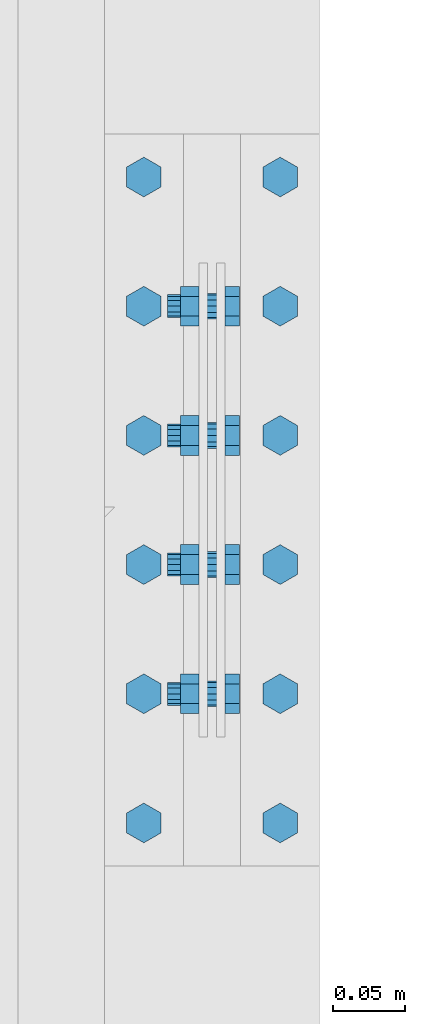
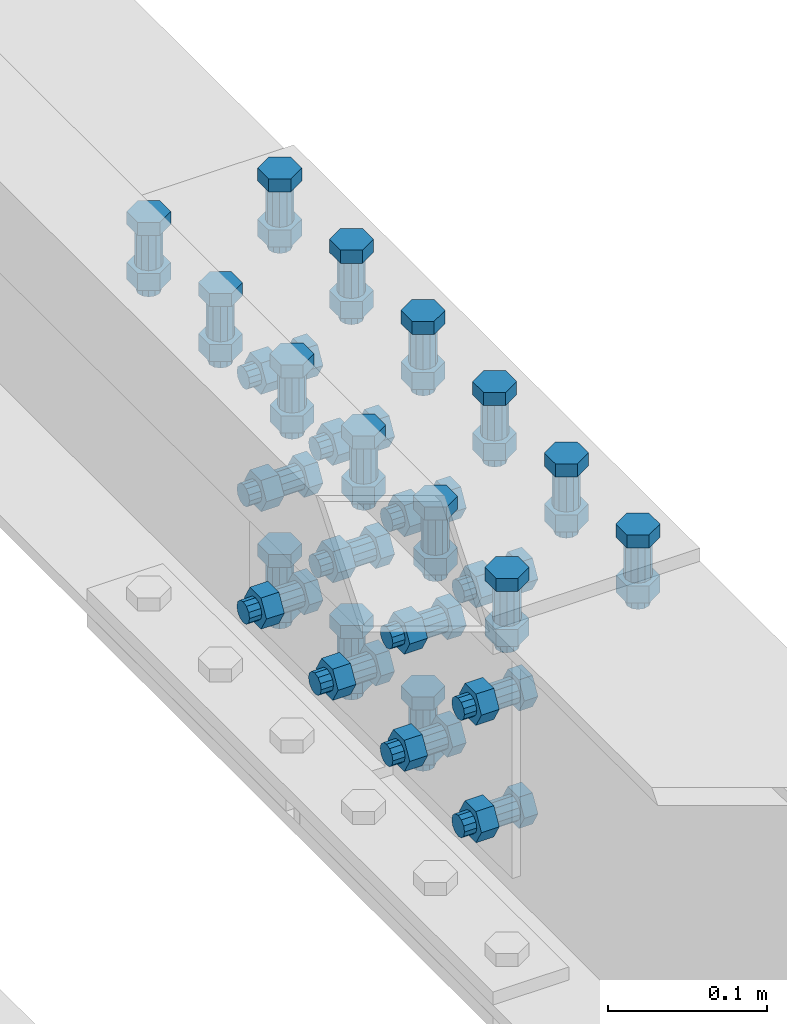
# One storey, part 149 of 3134: 7 mechanical fasteners, 2 elements without a shape of their own.
"""IFC2X3 building model written with IfcOpenShell, lengths in millimetres."""

from ifc_helpers import new_model, si_unit, frame, origin_with_axes, place, context, subcontext, project, spatial, faceted_brep, source, transform, mapped, material, type_object, element, aggregate, save


model = new_model("IFC2X3")

# Units and contexts
model_context = context("Model", 3, precision=1e-05, world=origin_with_axes())
body_context = subcontext(model_context, "Body", "Model", "MODEL_VIEW")
ifc_project = project(units=[si_unit("LENGTHUNIT", "METRE", prefix="MILLI"), si_unit("AREAUNIT", "SQUARE_METRE"), si_unit("VOLUMEUNIT", "CUBIC_METRE"), si_unit("MASSUNIT", "GRAM", prefix="KILO"), si_unit("TIMEUNIT", "SECOND"), si_unit("PLANEANGLEUNIT", "RADIAN"), si_unit("SOLIDANGLEUNIT", "STERADIAN"), si_unit("THERMODYNAMICTEMPERATUREUNIT", "DEGREE_CELSIUS"), si_unit("LUMINOUSINTENSITYUNIT", "LUMEN")], contexts=[model_context])

# Site, building, storey
site_placement = place(None, origin_with_axes())
site = spatial("IfcSite", under=ifc_project, at=site_placement, CompositionType="ELEMENT")
building_placement = place(site_placement, origin_with_axes())
building = spatial("IfcBuilding", under=site, at=building_placement, Name="Undefined", CompositionType="ELEMENT")
storey_placement = place(building_placement, origin_with_axes())
storey = spatial("IfcBuildingStorey", under=building, at=storey_placement, Name="Undefined", CompositionType="ELEMENT", Elevation=0.0)

# Assembly, mechanical fastener
assembly_1_placement = place(storey_placement, origin_with_axes())
assembly_1 = element("IfcElementAssembly", 1, at=assembly_1_placement, inside=storey, Name="300", AssemblyPlace="NOTDEFINED", PredefinedType="RIGID_FRAME")
ifc_material = material(Name="8.8")
mechanical_fastener_type = type_object("IfcMechanicalFastenerType", Name="Bolt assembly")
shared_shape_1 = source(origin_with_axes(), body_context, "Body", "Brep", [
    faceted_brep([(13.856406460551, -19.0499999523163, 0.0), (6.92820323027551, -19.0499999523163, 12.0), (-6.92820323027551, -19.0499999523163, 12.0), (-13.856406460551, -19.0499999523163, 1.69692038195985e-15), (-6.92820323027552, -19.0499999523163, -12.0), (6.9282032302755, -19.0499999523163, -12.0), (6.9282032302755, -9.04999995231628, -12.0), (-6.92820323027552, -9.04999995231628, -12.0), (-13.856406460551, -9.04999995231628, 1.69692038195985e-15), (-6.92820323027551, -9.04999995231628, 12.0), (6.92820323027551, -9.04999995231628, 12.0), (13.856406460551, -9.04999995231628, 0.0), (8.0, -9.04999995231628, 0.0), (6.92820323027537, -9.04999995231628, 4.00000000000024), (3.99999999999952, -9.04999995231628, 6.92820323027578), (-8.29068785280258e-13, -9.04999995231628, 8.0), (-4.00000000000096, -9.04999995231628, 6.92820323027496), (-6.9282032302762, -9.04999995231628, 3.99999999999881), (-8.0, -9.04999995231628, -1.65813757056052e-12), (-6.92820323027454, -9.04999995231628, -4.00000000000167), (-3.99999999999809, -9.04999995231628, -6.92820323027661), (2.47832457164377e-12, -9.04999995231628, -8.0), (4.00000000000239, -9.04999995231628, -6.92820323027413), (6.92820323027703, -9.04999995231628, -3.99999999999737), (6.92820323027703, 30.9500000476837, -3.99999999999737), (4.00000000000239, 30.9500000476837, -6.92820323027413), (2.47832457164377e-12, 30.9500000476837, -8.0), (-3.99999999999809, 30.9500000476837, -6.92820323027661), (-6.92820323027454, 30.9500000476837, -4.00000000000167), (-8.0, 30.9500000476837, -1.65813757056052e-12), (-6.9282032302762, 30.9500000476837, 3.99999999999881), (-4.00000000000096, 30.9500000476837, 6.92820323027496), (-8.29068785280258e-13, 30.9500000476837, 8.0), (3.99999999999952, 30.9500000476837, 6.92820323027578), (6.92820323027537, 30.9500000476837, 4.00000000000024), (8.0, 30.9500000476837, 0.0), (13.856406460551, 9.04999995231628, 0.0), (6.92820323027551, 9.04999995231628, 12.0), (-6.92820323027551, 9.04999995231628, 12.0), (-13.856406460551, 9.04999995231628, 1.69692038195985e-15), (-6.92820323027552, 9.04999995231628, -12.0), (6.9282032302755, 9.04999995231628, -12.0), (6.9282032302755, 22.0499999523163, -12.0), (-6.92820323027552, 22.0499999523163, -12.0), (-13.856406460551, 22.0499999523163, 1.69692038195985e-15), (-6.92820323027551, 22.0499999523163, 12.0), (6.92820323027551, 22.0499999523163, 12.0), (13.856406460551, 22.0499999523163, 0.0)], [[[0, 1, 2, 3, 4, 5]], [[6, 7, 8, 9, 10, 11]], [[0, 11, 10, 1]], [[1, 10, 9, 2]], [[2, 9, 8, 3]], [[3, 8, 7, 4]], [[4, 7, 6, 5]], [[5, 6, 11, 0]], [[12, 13, 14, 15, 16, 17, 18, 19, 20, 21, 22, 23]], [[24, 25, 26, 27, 28, 29, 30, 31, 32, 33, 34, 35]], [[12, 35, 34, 13]], [[13, 34, 33, 14]], [[14, 33, 32, 15]], [[15, 32, 31, 16]], [[16, 31, 30, 17]], [[17, 30, 29, 18]], [[18, 29, 28, 19]], [[19, 28, 27, 20]], [[20, 27, 26, 21]], [[21, 26, 25, 22]], [[22, 25, 24, 23]], [[23, 24, 35, 12]], [[36, 37, 38, 39, 40, 41]], [[42, 43, 44, 45, 46, 47]], [[36, 47, 46, 37]], [[37, 46, 45, 38]], [[38, 45, 44, 39]], [[39, 44, 43, 40]], [[40, 43, 42, 41]], [[41, 42, 47, 36]]]),
    faceted_brep([(9.0, -8.94999995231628, 0.0), (7.79422863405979, -8.94999995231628, 4.50000000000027), (4.49999999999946, -8.94999995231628, 7.79422863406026), (-9.3270238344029e-13, -8.94999995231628, 9.0), (-4.50000000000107, -8.94999995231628, 7.79422863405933), (-7.79422863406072, -8.94999995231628, 4.49999999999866), (-9.0, -8.94999995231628, -1.86540476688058e-12), (-7.79422863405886, -8.94999995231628, -4.50000000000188), (-4.49999999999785, -8.94999995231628, -7.79422863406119), (2.78811514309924e-12, -8.94999995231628, -9.0), (4.50000000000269, -8.94999995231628, -7.7942286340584), (7.79422863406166, -8.94999995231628, -4.49999999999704), (7.79422863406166, -2.94999995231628, -4.49999999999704), (4.50000000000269, -2.94999995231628, -7.7942286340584), (2.78811514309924e-12, -2.94999995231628, -9.0), (-4.49999999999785, -2.94999995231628, -7.79422863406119), (-7.79422863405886, -2.94999995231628, -4.50000000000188), (-9.0, -2.94999995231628, -1.86540476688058e-12), (-7.79422863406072, -2.94999995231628, 4.49999999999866), (-4.50000000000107, -2.94999995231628, 7.79422863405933), (-9.3270238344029e-13, -2.94999995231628, 9.0), (4.49999999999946, -2.94999995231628, 7.79422863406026), (7.79422863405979, -2.94999995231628, 4.50000000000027), (9.0, -2.94999995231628, 0.0), (9.0, -3.04999995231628, 0.0), (7.79422863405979, -3.04999995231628, 4.50000000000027), (4.49999999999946, -3.04999995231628, 7.79422863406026), (-9.3270238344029e-13, -3.04999995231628, 9.0), (-4.50000000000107, -3.04999995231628, 7.79422863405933), (-7.79422863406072, -3.04999995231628, 4.49999999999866), (-9.0, -3.04999995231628, -1.86540476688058e-12), (-7.79422863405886, -3.04999995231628, -4.50000000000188), (-4.49999999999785, -3.04999995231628, -7.79422863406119), (2.78811514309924e-12, -3.04999995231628, -9.0), (4.50000000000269, -3.04999995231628, -7.7942286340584), (7.79422863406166, -3.04999995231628, -4.49999999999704), (7.79422863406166, 3.04999995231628, -4.49999999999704), (4.50000000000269, 3.04999995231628, -7.7942286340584), (2.78811514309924e-12, 3.04999995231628, -9.0), (-4.49999999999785, 3.04999995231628, -7.79422863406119), (-7.79422863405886, 3.04999995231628, -4.50000000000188), (-9.0, 3.04999995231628, -1.86540476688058e-12), (-7.79422863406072, 3.04999995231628, 4.49999999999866), (-4.50000000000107, 3.04999995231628, 7.79422863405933), (-9.3270238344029e-13, 3.04999995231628, 9.0), (4.49999999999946, 3.04999995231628, 7.79422863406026), (7.79422863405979, 3.04999995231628, 4.50000000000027), (9.0, 3.04999995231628, 0.0), (9.0, 2.95000000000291, 0.0), (7.79422863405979, 2.95000000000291, 4.50000000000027), (4.49999999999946, 2.95000000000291, 7.79422863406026), (-9.3270238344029e-13, 2.95000000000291, 9.0), (-4.50000000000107, 2.95000000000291, 7.79422863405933), (-7.79422863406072, 2.95000000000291, 4.49999999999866), (-9.0, 2.95000000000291, -1.86540476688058e-12), (-7.79422863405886, 2.95000000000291, -4.50000000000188), (-4.49999999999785, 2.95000000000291, -7.79422863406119), (2.78811514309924e-12, 2.95000000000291, -9.0), (4.50000000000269, 2.95000000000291, -7.7942286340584), (7.79422863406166, 2.95000000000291, -4.49999999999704), (7.79422863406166, 9.04999995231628, -4.49999999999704), (4.50000000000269, 9.04999995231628, -7.7942286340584), (2.78811514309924e-12, 9.04999995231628, -9.0), (-4.49999999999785, 9.04999995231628, -7.79422863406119), (-7.79422863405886, 9.04999995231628, -4.50000000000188), (-9.0, 9.04999995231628, -1.86540476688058e-12), (-7.79422863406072, 9.04999995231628, 4.49999999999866), (-4.50000000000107, 9.04999995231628, 7.79422863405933), (-9.3270238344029e-13, 9.04999995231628, 9.0), (4.49999999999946, 9.04999995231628, 7.79422863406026), (7.79422863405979, 9.04999995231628, 4.50000000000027), (9.0, 9.04999995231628, 0.0)], [[[0, 1, 2, 3, 4, 5, 6, 7, 8, 9, 10, 11]], [[12, 13, 14, 15, 16, 17, 18, 19, 20, 21, 22, 23]], [[0, 23, 22, 1]], [[1, 22, 21, 2]], [[2, 21, 20, 3]], [[3, 20, 19, 4]], [[4, 19, 18, 5]], [[5, 18, 17, 6]], [[6, 17, 16, 7]], [[7, 16, 15, 8]], [[8, 15, 14, 9]], [[9, 14, 13, 10]], [[10, 13, 12, 11]], [[11, 12, 23, 0]], [[24, 25, 26, 27, 28, 29, 30, 31, 32, 33, 34, 35]], [[36, 37, 38, 39, 40, 41, 42, 43, 44, 45, 46, 47]], [[24, 47, 46, 25]], [[25, 46, 45, 26]], [[26, 45, 44, 27]], [[27, 44, 43, 28]], [[28, 43, 42, 29]], [[29, 42, 41, 30]], [[30, 41, 40, 31]], [[31, 40, 39, 32]], [[32, 39, 38, 33]], [[33, 38, 37, 34]], [[34, 37, 36, 35]], [[35, 36, 47, 24]], [[48, 49, 50, 51, 52, 53, 54, 55, 56, 57, 58, 59]], [[60, 61, 62, 63, 64, 65, 66, 67, 68, 69, 70, 71]], [[48, 71, 70, 49]], [[49, 70, 69, 50]], [[50, 69, 68, 51]], [[51, 68, 67, 52]], [[52, 67, 66, 53]], [[53, 66, 65, 54]], [[54, 65, 64, 55]], [[55, 64, 63, 56]], [[56, 63, 62, 57]], [[57, 62, 61, 58]], [[58, 61, 60, 59]], [[59, 60, 71, 48]]]),
])
mechanical_fastener_1_placement = place(assembly_1_placement, frame((44200.0, 28369.9, 4088.5), z_axis=(0.0, 0.0, 1.0), x_axis=(0.0, 1.0, 0.0)))
mechanical_fastener_1 = element("IfcMechanicalFastener", 2, at=mechanical_fastener_1_placement, type_object=mechanical_fastener_type, material=ifc_material, Name="Bolt assembly", NominalDiameter=16.0, NominalLength=40.0, context=body_context, shape_type="MappedRepresentation", body=[
    mapped(shared_shape_1, transform((0.0, 0.0, -90.0))),
    mapped(shared_shape_1, transform((90.0, 0.0, -90.0))),
    mapped(shared_shape_1, transform((0.0, 0.0, 0.0))),
    mapped(shared_shape_1, transform((90.0, 0.0, 0.0))),
    mapped(shared_shape_1, transform((0.0, 0.0, 90.0))),
    mapped(shared_shape_1, transform((90.0, 0.0, 90.0))),
])

# Assembly, mechanical fasteners
assembly_2_placement = place(storey_placement, origin_with_axes())
assembly_2 = element("IfcElementAssembly", 3, at=assembly_2_placement, inside=storey, Name="300", AssemblyPlace="NOTDEFINED", PredefinedType="RIGID_FRAME")
mechanical_fastener_2_placement = place(assembly_2_placement, frame((44200.0, 28189.9, 4088.5), z_axis=(0.0, 0.0, 1.0), x_axis=(0.0, 1.0, 0.0)))
mechanical_fastener_2 = element("IfcMechanicalFastener", 4, at=mechanical_fastener_2_placement, type_object=mechanical_fastener_type, material=ifc_material, Name="Bolt assembly", NominalDiameter=16.0, NominalLength=40.0, context=body_context, shape_type="MappedRepresentation", body=[
    mapped(shared_shape_1, transform((0.0, 0.0, -90.0))),
    mapped(shared_shape_1, transform((90.0, 0.0, -90.0))),
    mapped(shared_shape_1, transform((0.0, 0.0, 0.0))),
    mapped(shared_shape_1, transform((90.0, 0.0, 0.0))),
    mapped(shared_shape_1, transform((0.0, 0.0, 90.0))),
    mapped(shared_shape_1, transform((90.0, 0.0, 90.0))),
])
shared_shape_2 = source(origin_with_axes(), body_context, "Body", "Brep", [
    faceted_brep([(13.856406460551, -29.1999998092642, 0.0), (6.92820323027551, -29.1999998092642, 12.0), (-6.92820323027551, -29.1999998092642, 12.0), (-13.856406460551, -29.1999998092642, 1.69692038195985e-15), (-6.92820323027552, -29.1999998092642, -12.0), (6.9282032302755, -29.1999998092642, -12.0), (6.9282032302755, -19.199990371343, -12.0), (-6.92820323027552, -19.199990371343, -12.0), (-13.856406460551, -19.199990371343, 1.69692038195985e-15), (-6.92820323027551, -19.199990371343, 12.0), (6.92820323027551, -19.199990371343, 12.0), (13.856406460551, -19.199990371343, 0.0), (8.0, -19.1999998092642, 0.0), (6.92820323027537, -19.1999998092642, 4.00000000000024), (3.99999999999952, -19.1999998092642, 6.92820323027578), (-8.29068785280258e-13, -19.1999998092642, 8.0), (-4.00000000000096, -19.1999998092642, 6.92820323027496), (-6.9282032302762, -19.1999998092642, 3.99999999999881), (-8.0, -19.1999998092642, -1.65813757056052e-12), (-6.92820323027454, -19.1999998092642, -4.00000000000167), (-3.99999999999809, -19.1999998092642, -6.92820323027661), (2.47832457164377e-12, -19.1999998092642, -8.0), (4.00000000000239, -19.1999998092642, -6.92820323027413), (6.92820323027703, -19.1999998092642, -3.99999999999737), (6.92820323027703, 30.8000001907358, -3.99999999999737), (4.00000000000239, 30.8000001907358, -6.92820323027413), (2.47832457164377e-12, 30.8000001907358, -8.0), (-3.99999999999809, 30.8000001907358, -6.92820323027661), (-6.92820323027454, 30.8000001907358, -4.00000000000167), (-8.0, 30.8000001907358, -1.65813757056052e-12), (-6.9282032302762, 30.8000001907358, 3.99999999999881), (-4.00000000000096, 30.8000001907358, 6.92820323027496), (-8.29068785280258e-13, 30.8000001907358, 8.0), (3.99999999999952, 30.8000001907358, 6.92820323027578), (6.92820323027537, 30.8000001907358, 4.00000000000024), (8.0, 30.8000001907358, 0.0), (13.856406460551, 9.99999995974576, 0.0), (6.92820323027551, 9.99999995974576, 12.0), (-6.92820323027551, 9.99999995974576, 12.0), (-13.856406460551, 9.99999995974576, 1.69692038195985e-15), (-6.92820323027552, 9.99999995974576, -12.0), (6.9282032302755, 9.99999995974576, -12.0), (6.9282032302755, 22.9999913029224, -12.0), (-6.92820323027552, 22.9999913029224, -12.0), (-13.856406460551, 22.9999913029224, 1.69692038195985e-15), (-6.92820323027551, 22.9999913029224, 12.0), (6.92820323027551, 22.9999913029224, 12.0), (13.856406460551, 22.9999913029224, 0.0)], [[[0, 1, 2, 3, 4, 5]], [[6, 7, 8, 9, 10, 11]], [[0, 11, 10, 1]], [[1, 10, 9, 2]], [[2, 9, 8, 3]], [[3, 8, 7, 4]], [[4, 7, 6, 5]], [[5, 6, 11, 0]], [[12, 13, 14, 15, 16, 17, 18, 19, 20, 21, 22, 23]], [[24, 25, 26, 27, 28, 29, 30, 31, 32, 33, 34, 35]], [[12, 35, 34, 13]], [[13, 34, 33, 14]], [[14, 33, 32, 15]], [[15, 32, 31, 16]], [[16, 31, 30, 17]], [[17, 30, 29, 18]], [[18, 29, 28, 19]], [[19, 28, 27, 20]], [[20, 27, 26, 21]], [[21, 26, 25, 22]], [[22, 25, 24, 23]], [[23, 24, 35, 12]], [[36, 37, 38, 39, 40, 41]], [[42, 43, 44, 45, 46, 47]], [[36, 47, 46, 37]], [[37, 46, 45, 38]], [[38, 45, 44, 39]], [[39, 44, 43, 40]], [[40, 43, 42, 41]], [[41, 42, 47, 36]]]),
    faceted_brep([(9.0, -19.0999998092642, 0.0), (7.79422863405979, -19.0999998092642, 4.50000000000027), (4.49999999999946, -19.0999998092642, 7.79422863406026), (-9.3270238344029e-13, -19.0999998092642, 9.0), (-4.50000000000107, -19.0999998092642, 7.79422863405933), (-7.79422863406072, -19.0999998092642, 4.49999999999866), (-9.0, -19.0999998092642, -1.86540476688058e-12), (-7.79422863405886, -19.0999998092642, -4.50000000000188), (-4.49999999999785, -19.0999998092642, -7.79422863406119), (2.78811514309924e-12, -19.0999998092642, -9.0), (4.50000000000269, -19.0999998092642, -7.7942286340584), (7.79422863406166, -19.0999998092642, -4.49999999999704), (7.79422863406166, -9.09999037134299, -4.49999999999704), (4.50000000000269, -9.09999037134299, -7.7942286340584), (2.78811514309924e-12, -9.09999037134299, -9.0), (-4.49999999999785, -9.09999037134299, -7.79422863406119), (-7.79422863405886, -9.09999037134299, -4.50000000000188), (-9.0, -9.09999037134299, -1.86540476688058e-12), (-7.79422863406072, -9.09999037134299, 4.49999999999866), (-4.50000000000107, -9.09999037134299, 7.79422863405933), (-9.3270238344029e-13, -9.09999037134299, 9.0), (4.49999999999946, -9.09999037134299, 7.79422863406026), (7.79422863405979, -9.09999037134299, 4.50000000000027), (9.0, -9.09999037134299, 0.0), (9.0, -9.20000008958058, 0.0), (7.79422863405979, -9.20000008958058, 4.50000000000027), (4.49999999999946, -9.20000008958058, 7.79422863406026), (-9.3270238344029e-13, -9.20000008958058, 9.0), (-4.50000000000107, -9.20000008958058, 7.79422863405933), (-7.79422863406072, -9.20000008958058, 4.49999999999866), (-9.0, -9.20000008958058, -1.86540476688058e-12), (-7.79422863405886, -9.20000008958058, -4.50000000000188), (-4.49999999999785, -9.20000008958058, -7.79422863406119), (2.78811514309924e-12, -9.20000008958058, -9.0), (4.50000000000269, -9.20000008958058, -7.7942286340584), (7.79422863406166, -9.20000008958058, -4.49999999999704), (7.79422863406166, -3.46568413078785e-07, -4.49999999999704), (4.50000000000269, -3.46568413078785e-07, -7.7942286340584), (2.78811514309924e-12, -3.46568413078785e-07, -9.0), (-4.49999999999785, -3.46568413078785e-07, -7.79422863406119), (-7.79422863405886, -3.46568413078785e-07, -4.50000000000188), (-9.0, -3.46568413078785e-07, -1.86540476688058e-12), (-7.79422863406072, -3.46568413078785e-07, 4.49999999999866), (-4.50000000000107, -3.46568413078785e-07, 7.79422863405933), (-9.3270238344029e-13, -3.46568413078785e-07, 9.0), (4.49999999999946, -3.46568413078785e-07, 7.79422863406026), (7.79422863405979, -3.46568413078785e-07, 4.50000000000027), (9.0, -3.46568413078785e-07, 0.0), (9.0, -0.1, 0.0), (7.79422863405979, -0.1, 4.50000000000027), (4.49999999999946, -0.1, 7.79422863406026), (-9.3270238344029e-13, -0.1, 9.0), (-4.50000000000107, -0.1, 7.79422863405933), (-7.79422863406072, -0.1, 4.49999999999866), (-9.0, -0.1, -1.86540476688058e-12), (-7.79422863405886, -0.1, -4.50000000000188), (-4.49999999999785, -0.1, -7.79422863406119), (2.78811514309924e-12, -0.1, -9.0), (4.50000000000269, -0.1, -7.7942286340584), (7.79422863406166, -0.1, -4.49999999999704), (7.79422863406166, 9.99999995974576, -4.49999999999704), (4.50000000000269, 9.99999995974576, -7.7942286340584), (2.78811514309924e-12, 9.99999995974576, -9.0), (-4.49999999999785, 9.99999995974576, -7.79422863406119), (-7.79422863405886, 9.99999995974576, -4.50000000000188), (-9.0, 9.99999995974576, -1.86540476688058e-12), (-7.79422863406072, 9.99999995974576, 4.49999999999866), (-4.50000000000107, 9.99999995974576, 7.79422863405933), (-9.3270238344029e-13, 9.99999995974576, 9.0), (4.49999999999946, 9.99999995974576, 7.79422863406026), (7.79422863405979, 9.99999995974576, 4.50000000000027), (9.0, 9.99999995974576, 0.0)], [[[0, 1, 2, 3, 4, 5, 6, 7, 8, 9, 10, 11]], [[12, 13, 14, 15, 16, 17, 18, 19, 20, 21, 22, 23]], [[0, 23, 22, 1]], [[1, 22, 21, 2]], [[2, 21, 20, 3]], [[3, 20, 19, 4]], [[4, 19, 18, 5]], [[5, 18, 17, 6]], [[6, 17, 16, 7]], [[7, 16, 15, 8]], [[8, 15, 14, 9]], [[9, 14, 13, 10]], [[10, 13, 12, 11]], [[11, 12, 23, 0]], [[24, 25, 26, 27, 28, 29, 30, 31, 32, 33, 34, 35]], [[36, 37, 38, 39, 40, 41, 42, 43, 44, 45, 46, 47]], [[24, 47, 46, 25]], [[25, 46, 45, 26]], [[26, 45, 44, 27]], [[27, 44, 43, 28]], [[28, 43, 42, 29]], [[29, 42, 41, 30]], [[30, 41, 40, 31]], [[31, 40, 39, 32]], [[32, 39, 38, 33]], [[33, 38, 37, 34]], [[34, 37, 36, 35]], [[35, 36, 47, 24]], [[48, 49, 50, 51, 52, 53, 54, 55, 56, 57, 58, 59]], [[60, 61, 62, 63, 64, 65, 66, 67, 68, 69, 70, 71]], [[48, 71, 70, 49]], [[49, 70, 69, 50]], [[50, 69, 68, 51]], [[51, 68, 67, 52]], [[52, 67, 66, 53]], [[53, 66, 65, 54]], [[54, 65, 64, 55]], [[55, 64, 63, 56]], [[56, 63, 62, 57]], [[57, 62, 61, 58]], [[58, 61, 60, 59]], [[59, 60, 71, 48]]]),
])
mechanical_fastener_3_placement = place(assembly_2_placement, frame((44247.5, 28099.9, 4227.80000019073), z_axis=(-1.0, 0.0, 0.0), x_axis=(0.0, 1.0, 0.0)))
mechanical_fastener_3 = element("IfcMechanicalFastener", 5, at=mechanical_fastener_3_placement, type_object=mechanical_fastener_type, material=ifc_material, Name="Bolt assembly", NominalDiameter=16.0, NominalLength=50.0, context=body_context, shape_type="MappedRepresentation", body=[
    mapped(shared_shape_2, transform((0.0, 0.0, 0.0))),
    mapped(shared_shape_2, transform((90.0, 0.0, 0.0))),
    mapped(shared_shape_2, transform((180.0, 0.0, 0.0))),
])
mechanical_fastener_4_placement = place(assembly_2_placement, frame((44152.5, 28099.9, 4227.80000019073), z_axis=(-1.0, 0.0, 0.0), x_axis=(0.0, 1.0, 0.0)))
mechanical_fastener_4 = element("IfcMechanicalFastener", 6, at=mechanical_fastener_4_placement, type_object=mechanical_fastener_type, material=ifc_material, Name="Bolt assembly", NominalDiameter=16.0, NominalLength=50.0, context=body_context, shape_type="MappedRepresentation", body=[
    mapped(shared_shape_2, transform((0.0, 0.0, 0.0))),
    mapped(shared_shape_2, transform((90.0, 0.0, 0.0))),
    mapped(shared_shape_2, transform((180.0, 0.0, 0.0))),
])
aggregate(assembly_2, [mechanical_fastener_3, mechanical_fastener_4, mechanical_fastener_2])

# Mechanical fastener
mechanical_fastener_5_placement = place(assembly_1_placement, frame((44247.5, 28369.9, 4227.80000019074), z_axis=(-1.0, 0.0, 0.0), x_axis=(0.0, 1.0, 0.0)))
mechanical_fastener_5 = element("IfcMechanicalFastener", 7, at=mechanical_fastener_5_placement, type_object=mechanical_fastener_type, material=ifc_material, Name="Bolt assembly", NominalDiameter=16.0, NominalLength=50.0, context=body_context, shape_type="MappedRepresentation", body=[
    mapped(shared_shape_2, transform((0.0, 0.0, 0.0))),
    mapped(shared_shape_2, transform((90.0, 0.0, 0.0))),
    mapped(shared_shape_2, transform((180.0, 0.0, 0.0))),
])

mechanical_fastener_6_placement = place(assembly_1_placement, frame((44152.5, 28369.9, 4227.80000019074), z_axis=(-1.0, 0.0, 0.0), x_axis=(0.0, 1.0, 0.0)))
mechanical_fastener_6 = element("IfcMechanicalFastener", 8, at=mechanical_fastener_6_placement, type_object=mechanical_fastener_type, material=ifc_material, Name="Bolt assembly", NominalDiameter=16.0, NominalLength=50.0, context=body_context, shape_type="MappedRepresentation", body=[
    mapped(shared_shape_2, transform((0.0, 0.0, 0.0))),
    mapped(shared_shape_2, transform((90.0, 0.0, 0.0))),
    mapped(shared_shape_2, transform((180.0, 0.0, 0.0))),
])

shared_shape_3 = source(origin_with_axes(), body_context, "Body", "Brep", [
    faceted_brep([(13.856406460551, -20.0, 0.0), (6.92820323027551, -20.0, 12.0), (-6.92820323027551, -20.0, 12.0), (-13.856406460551, -20.0, 1.69692038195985e-15), (-6.92820323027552, -20.0, -12.0), (6.9282032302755, -20.0, -12.0), (6.9282032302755, -10.0, -12.0), (-6.92820323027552, -10.0, -12.0), (-13.856406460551, -10.0, 1.69692038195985e-15), (-6.92820323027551, -10.0, 12.0), (6.92820323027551, -10.0, 12.0), (13.856406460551, -10.0, 0.0), (8.0, -10.0, 0.0), (6.92820323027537, -10.0, 4.00000000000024), (3.99999999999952, -10.0, 6.92820323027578), (-8.29068785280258e-13, -10.0, 8.0), (-4.00000000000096, -10.0, 6.92820323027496), (-6.9282032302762, -10.0, 3.99999999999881), (-8.0, -10.0, -1.65813757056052e-12), (-6.92820323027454, -10.0, -4.00000000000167), (-3.99999999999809, -10.0, -6.92820323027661), (2.47832457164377e-12, -10.0, -8.0), (4.00000000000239, -10.0, -6.92820323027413), (6.92820323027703, -10.0, -3.99999999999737), (6.92820323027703, 40.0, -3.99999999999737), (4.00000000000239, 40.0, -6.92820323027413), (2.47832457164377e-12, 40.0, -8.0), (-3.99999999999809, 40.0, -6.92820323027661), (-6.92820323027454, 40.0, -4.00000000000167), (-8.0, 40.0, -1.65813757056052e-12), (-6.9282032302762, 40.0, 3.99999999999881), (-4.00000000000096, 40.0, 6.92820323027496), (-8.29068785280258e-13, 40.0, 8.0), (3.99999999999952, 40.0, 6.92820323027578), (6.92820323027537, 40.0, 4.00000000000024), (8.0, 40.0, 0.0), (13.856406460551, 19.1999998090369, 0.0), (6.92820323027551, 19.1999998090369, 12.0), (-6.92820323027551, 19.1999998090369, 12.0), (-13.856406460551, 19.1999998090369, 1.69692038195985e-15), (-6.92820323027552, 19.1999998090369, -12.0), (6.9282032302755, 19.1999998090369, -12.0), (6.9282032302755, 32.1999998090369, -12.0), (-6.92820323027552, 32.1999998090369, -12.0), (-13.856406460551, 32.1999998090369, 1.69692038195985e-15), (-6.92820323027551, 32.1999998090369, 12.0), (6.92820323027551, 32.1999998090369, 12.0), (13.856406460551, 32.1999998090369, 0.0)], [[[0, 1, 2, 3, 4, 5]], [[6, 7, 8, 9, 10, 11]], [[0, 11, 10, 1]], [[1, 10, 9, 2]], [[2, 9, 8, 3]], [[3, 8, 7, 4]], [[4, 7, 6, 5]], [[5, 6, 11, 0]], [[12, 13, 14, 15, 16, 17, 18, 19, 20, 21, 22, 23]], [[24, 25, 26, 27, 28, 29, 30, 31, 32, 33, 34, 35]], [[12, 35, 34, 13]], [[13, 34, 33, 14]], [[14, 33, 32, 15]], [[15, 32, 31, 16]], [[16, 31, 30, 17]], [[17, 30, 29, 18]], [[18, 29, 28, 19]], [[19, 28, 27, 20]], [[20, 27, 26, 21]], [[21, 26, 25, 22]], [[22, 25, 24, 23]], [[23, 24, 35, 12]], [[36, 37, 38, 39, 40, 41]], [[42, 43, 44, 45, 46, 47]], [[36, 47, 46, 37]], [[37, 46, 45, 38]], [[38, 45, 44, 39]], [[39, 44, 43, 40]], [[40, 43, 42, 41]], [[41, 42, 47, 36]]]),
    faceted_brep([(9.0, 9.09999980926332, 0.0), (7.79422863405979, 9.09999980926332, 4.50000000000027), (4.49999999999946, 9.09999980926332, 7.79422863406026), (-9.3270238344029e-13, 9.09999980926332, 9.0), (-4.50000000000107, 9.09999980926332, 7.79422863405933), (-7.79422863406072, 9.09999980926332, 4.49999999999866), (-9.0, 9.09999980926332, -1.86540476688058e-12), (-7.79422863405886, 9.09999980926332, -4.50000000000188), (-4.49999999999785, 9.09999980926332, -7.79422863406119), (2.78811514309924e-12, 9.09999980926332, -9.0), (4.50000000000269, 9.09999980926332, -7.7942286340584), (7.79422863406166, 9.09999980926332, -4.49999999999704), (7.79422863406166, 19.1999998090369, -4.49999999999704), (4.50000000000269, 19.1999998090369, -7.7942286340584), (2.78811514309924e-12, 19.1999998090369, -9.0), (-4.49999999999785, 19.1999998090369, -7.79422863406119), (-7.79422863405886, 19.1999998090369, -4.50000000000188), (-9.0, 19.1999998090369, -1.86540476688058e-12), (-7.79422863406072, 19.1999998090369, 4.49999999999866), (-4.50000000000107, 19.1999998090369, 7.79422863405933), (-9.3270238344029e-13, 19.1999998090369, 9.0), (4.49999999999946, 19.1999998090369, 7.79422863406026), (7.79422863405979, 19.1999998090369, 4.50000000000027), (9.0, 19.1999998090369, 0.0), (9.0, -3.46568413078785e-07, 0.0), (7.79422863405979, -3.46568413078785e-07, 4.50000000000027), (4.49999999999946, -3.46568413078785e-07, 7.79422863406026), (-9.3270238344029e-13, -3.46568413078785e-07, 9.0), (-4.50000000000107, -3.46568413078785e-07, 7.79422863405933), (-7.79422863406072, -3.46568413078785e-07, 4.49999999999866), (-9.0, -3.46568413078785e-07, -1.86540476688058e-12), (-7.79422863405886, -3.46568413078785e-07, -4.50000000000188), (-4.49999999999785, -3.46568413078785e-07, -7.79422863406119), (2.78811514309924e-12, -3.46568413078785e-07, -9.0), (4.50000000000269, -3.46568413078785e-07, -7.7942286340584), (7.79422863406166, -3.46568413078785e-07, -4.49999999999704), (7.79422863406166, 9.19999980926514, -4.49999999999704), (4.50000000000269, 9.19999980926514, -7.7942286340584), (2.78811514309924e-12, 9.19999980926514, -9.0), (-4.49999999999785, 9.19999980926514, -7.79422863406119), (-7.79422863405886, 9.19999980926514, -4.50000000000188), (-9.0, 9.19999980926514, -1.86540476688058e-12), (-7.79422863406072, 9.19999980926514, 4.49999999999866), (-4.50000000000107, 9.19999980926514, 7.79422863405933), (-9.3270238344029e-13, 9.19999980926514, 9.0), (4.49999999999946, 9.19999980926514, 7.79422863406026), (7.79422863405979, 9.19999980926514, 4.50000000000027), (9.0, 9.19999980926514, 0.0), (9.0, -9.89999997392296, 0.0), (7.79422863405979, -9.89999997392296, 4.50000000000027), (4.49999999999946, -9.89999997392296, 7.79422863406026), (-9.3270238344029e-13, -9.89999997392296, 9.0), (-4.50000000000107, -9.89999997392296, 7.79422863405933), (-7.79422863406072, -9.89999997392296, 4.49999999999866), (-9.0, -9.89999997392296, -1.86540476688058e-12), (-7.79422863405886, -9.89999997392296, -4.50000000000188), (-4.49999999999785, -9.89999997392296, -7.79422863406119), (2.78811514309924e-12, -9.89999997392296, -9.0), (4.50000000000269, -9.89999997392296, -7.7942286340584), (7.79422863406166, -9.89999997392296, -4.49999999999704), (7.79422863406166, 0.100000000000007, -4.49999999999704), (4.50000000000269, 0.100000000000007, -7.7942286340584), (2.78811514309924e-12, 0.100000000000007, -9.0), (-4.49999999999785, 0.100000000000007, -7.79422863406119), (-7.79422863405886, 0.100000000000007, -4.50000000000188), (-9.0, 0.100000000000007, -1.86540476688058e-12), (-7.79422863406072, 0.100000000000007, 4.49999999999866), (-4.50000000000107, 0.100000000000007, 7.79422863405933), (-9.3270238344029e-13, 0.100000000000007, 9.0), (4.49999999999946, 0.100000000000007, 7.79422863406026), (7.79422863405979, 0.100000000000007, 4.50000000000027), (9.0, 0.100000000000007, 0.0)], [[[0, 1, 2, 3, 4, 5, 6, 7, 8, 9, 10, 11]], [[12, 13, 14, 15, 16, 17, 18, 19, 20, 21, 22, 23]], [[0, 23, 22, 1]], [[1, 22, 21, 2]], [[2, 21, 20, 3]], [[3, 20, 19, 4]], [[4, 19, 18, 5]], [[5, 18, 17, 6]], [[6, 17, 16, 7]], [[7, 16, 15, 8]], [[8, 15, 14, 9]], [[9, 14, 13, 10]], [[10, 13, 12, 11]], [[11, 12, 23, 0]], [[24, 25, 26, 27, 28, 29, 30, 31, 32, 33, 34, 35]], [[36, 37, 38, 39, 40, 41, 42, 43, 44, 45, 46, 47]], [[24, 47, 46, 25]], [[25, 46, 45, 26]], [[26, 45, 44, 27]], [[27, 44, 43, 28]], [[28, 43, 42, 29]], [[29, 42, 41, 30]], [[30, 41, 40, 31]], [[31, 40, 39, 32]], [[32, 39, 38, 33]], [[33, 38, 37, 34]], [[34, 37, 36, 35]], [[35, 36, 47, 24]], [[48, 49, 50, 51, 52, 53, 54, 55, 56, 57, 58, 59]], [[60, 61, 62, 63, 64, 65, 66, 67, 68, 69, 70, 71]], [[48, 71, 70, 49]], [[49, 70, 69, 50]], [[50, 69, 68, 51]], [[51, 68, 67, 52]], [[52, 67, 66, 53]], [[53, 66, 65, 54]], [[54, 65, 64, 55]], [[55, 64, 63, 56]], [[56, 63, 62, 57]], [[57, 62, 61, 58]], [[58, 61, 60, 59]], [[59, 60, 71, 48]]]),
])
mechanical_fastener_7_placement = place(assembly_1_placement, frame((44247.4999999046, 28369.9, 3949.19999980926), z_axis=(-1.0, 0.0, 0.0), x_axis=(0.0, 1.0, 0.0)))
mechanical_fastener_7 = element("IfcMechanicalFastener", 9, at=mechanical_fastener_7_placement, type_object=mechanical_fastener_type, material=ifc_material, Name="Bolt assembly", NominalDiameter=16.0, NominalLength=50.0, context=body_context, shape_type="MappedRepresentation", body=[
    mapped(shared_shape_3, transform((0.0, 0.0, 0.0))),
    mapped(shared_shape_3, transform((90.0, 0.0, 0.0))),
    mapped(shared_shape_3, transform((180.0, 0.0, 0.0))),
])

aggregate(assembly_1, [mechanical_fastener_7, mechanical_fastener_5, mechanical_fastener_6, mechanical_fastener_1])

save(model, "model.ifc")
